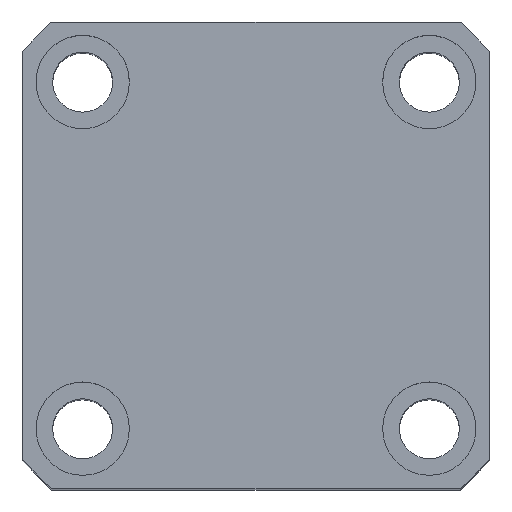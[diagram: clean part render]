
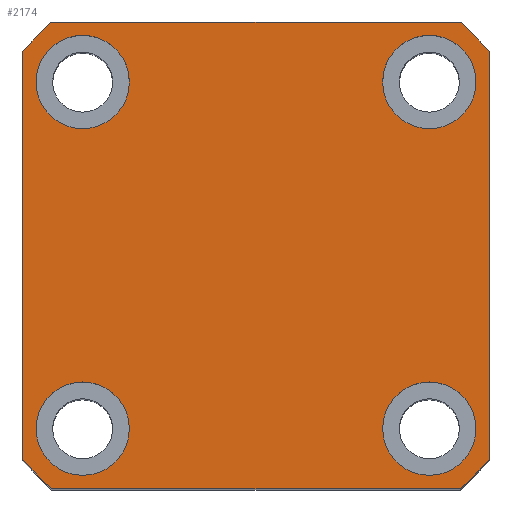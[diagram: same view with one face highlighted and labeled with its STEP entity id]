
A CAD part, top view. The second image highlights one B-rep face of the part: STEP entity #2174.
In plain terms, the highlighted planar face has unit normal (0, 0, 1).
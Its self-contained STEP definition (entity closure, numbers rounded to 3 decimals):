
#88 = EDGE_CURVE ( 'NONE', #9206, #11886, #5269, .T. ) ;
#153 = ORIENTED_EDGE ( 'NONE', *, *, #8220, .F. ) ;
#320 = EDGE_CURVE ( 'NONE', #7828, #8164, #4269, .T. ) ;
#364 = ORIENTED_EDGE ( 'NONE', *, *, #8535, .T. ) ;
#375 = CARTESIAN_POINT ( 'NONE',  ( -26., -26., 115. ) ) ;
#724 = CARTESIAN_POINT ( 'NONE',  ( 33., 26., 115. ) ) ;
#868 = EDGE_LOOP ( 'NONE', ( #7760, #10667 ) ) ;
#909 = VERTEX_POINT ( 'NONE', #1614 ) ;
#935 = CARTESIAN_POINT ( 'NONE',  ( 26., 26., 115. ) ) ;
#1083 = DIRECTION ( 'NONE',  ( 0., 0., 1. ) ) ;
#1107 = EDGE_CURVE ( 'NONE', #1724, #7828, #2087, .T. ) ;
#1427 = DIRECTION ( 'NONE',  ( 1., 0., 0. ) ) ;
#1451 = CIRCLE ( 'NONE', #4748, 7. ) ;
#1614 = CARTESIAN_POINT ( 'NONE',  ( -19., -26., 115. ) ) ;
#1724 = VERTEX_POINT ( 'NONE', #7102 ) ;
#1984 = DIRECTION ( 'NONE',  ( 1., 0., 0. ) ) ;
#2054 = CARTESIAN_POINT ( 'NONE',  ( 0., 0., 115. ) ) ;
#2087 = LINE ( 'NONE', #11456, #7739 ) ;
#2127 = DIRECTION ( 'NONE',  ( 0., 0., 1. ) ) ;
#2136 = EDGE_CURVE ( 'NONE', #8016, #11325, #8707, .T. ) ;
#2150 = VECTOR ( 'NONE', #9705, 1000. ) ;
#2159 = AXIS2_PLACEMENT_3D ( 'NONE', #2328, #9748, #3419 ) ;
#2174 = ADVANCED_FACE ( 'NONE', ( #8386, #2382, #10860, #13672, #8050 ), #3070, .T. ) ;
#2281 = CARTESIAN_POINT ( 'NONE',  ( -26., 26., 115. ) ) ;
#2294 = CARTESIAN_POINT ( 'NONE',  ( -35., 35., 115. ) ) ;
#2328 = CARTESIAN_POINT ( 'NONE',  ( 0., 0., 115. ) ) ;
#2382 = FACE_BOUND ( 'NONE', #12220, .T. ) ;
#2450 = VERTEX_POINT ( 'NONE', #4328 ) ;
#2767 = VERTEX_POINT ( 'NONE', #8939 ) ;
#3070 = PLANE ( 'NONE',  #11458 ) ;
#3128 = DIRECTION ( 'NONE',  ( 1., 0., 0. ) ) ;
#3215 = VERTEX_POINT ( 'NONE', #6489 ) ;
#3221 = AXIS2_PLACEMENT_3D ( 'NONE', #7442, #1083, #9752 ) ;
#3369 = DIRECTION ( 'NONE',  ( 1., 0., 0. ) ) ;
#3419 = DIRECTION ( 'NONE',  ( 1., 0., 0. ) ) ;
#3481 = ORIENTED_EDGE ( 'NONE', *, *, #9799, .F. ) ;
#3579 = DIRECTION ( 'NONE',  ( 0., 0., 1. ) ) ;
#3704 = VECTOR ( 'NONE', #8855, 1000. ) ;
#3711 = ORIENTED_EDGE ( 'NONE', *, *, #5736, .T. ) ;
#3963 = CARTESIAN_POINT ( 'NONE',  ( -26., 26., 115. ) ) ;
#4134 = DIRECTION ( 'NONE',  ( 0., 0., 1. ) ) ;
#4150 = CARTESIAN_POINT ( 'NONE',  ( 0., 0., 115. ) ) ;
#4153 = CARTESIAN_POINT ( 'NONE',  ( -35., 30.615, 115. ) ) ;
#4269 = CIRCLE ( 'NONE', #8052, 46.5 ) ;
#4328 = CARTESIAN_POINT ( 'NONE',  ( 35., 30.615, 115. ) ) ;
#4393 = CARTESIAN_POINT ( 'NONE',  ( 33., -26., 115. ) ) ;
#4687 = AXIS2_PLACEMENT_3D ( 'NONE', #8483, #2127, #9524 ) ;
#4748 = AXIS2_PLACEMENT_3D ( 'NONE', #3963, #11358, #5028 ) ;
#4849 = ORIENTED_EDGE ( 'NONE', *, *, #5924, .F. ) ;
#5003 = LINE ( 'NONE', #2294, #2150 ) ;
#5028 = DIRECTION ( 'NONE',  ( 1., 0., 0. ) ) ;
#5074 = AXIS2_PLACEMENT_3D ( 'NONE', #5990, #13370, #7062 ) ;
#5208 = DIRECTION ( 'NONE',  ( 1., 0., 0. ) ) ;
#5269 = CIRCLE ( 'NONE', #11857, 7. ) ;
#5390 = DIRECTION ( 'NONE',  ( 0., 0., 1. ) ) ;
#5491 = DIRECTION ( 'NONE',  ( 1., 0., 0. ) ) ;
#5643 = CARTESIAN_POINT ( 'NONE',  ( -33., 26., 115. ) ) ;
#5722 = EDGE_CURVE ( 'NONE', #11325, #8016, #7410, .T. ) ;
#5736 = EDGE_CURVE ( 'NONE', #12585, #12274, #10199, .T. ) ;
#5796 = CARTESIAN_POINT ( 'NONE',  ( 35., 35., 115. ) ) ;
#5924 = EDGE_CURVE ( 'NONE', #11886, #9206, #9527, .T. ) ;
#5990 = CARTESIAN_POINT ( 'NONE',  ( 26., 26., 115. ) ) ;
#6292 = CARTESIAN_POINT ( 'NONE',  ( -35., -30.615, 115. ) ) ;
#6489 = CARTESIAN_POINT ( 'NONE',  ( -33., -26., 115. ) ) ;
#6561 = ORIENTED_EDGE ( 'NONE', *, *, #320, .T. ) ;
#6864 = EDGE_LOOP ( 'NONE', ( #7935, #3481 ) ) ;
#6959 = CARTESIAN_POINT ( 'NONE',  ( 19., 26., 115. ) ) ;
#7062 = DIRECTION ( 'NONE',  ( 1., 0., 0. ) ) ;
#7102 = CARTESIAN_POINT ( 'NONE',  ( 30.615, 35., 115. ) ) ;
#7104 = LINE ( 'NONE', #5796, #12702 ) ;
#7180 = EDGE_CURVE ( 'NONE', #2450, #1724, #11895, .T. ) ;
#7208 = CARTESIAN_POINT ( 'NONE',  ( 30.615, -35., 115. ) ) ;
#7212 = AXIS2_PLACEMENT_3D ( 'NONE', #2281, #9686, #3369 ) ;
#7283 = ORIENTED_EDGE ( 'NONE', *, *, #7180, .T. ) ;
#7316 = ORIENTED_EDGE ( 'NONE', *, *, #8426, .F. ) ;
#7410 = CIRCLE ( 'NONE', #12709, 7. ) ;
#7442 = CARTESIAN_POINT ( 'NONE',  ( 26., -26., 115. ) ) ;
#7580 = EDGE_CURVE ( 'NONE', #7851, #13596, #1451, .T. ) ;
#7739 = VECTOR ( 'NONE', #12543, 1000. ) ;
#7760 = ORIENTED_EDGE ( 'NONE', *, *, #2136, .F. ) ;
#7791 = DIRECTION ( 'NONE',  ( 0., 0., 1. ) ) ;
#7808 = CARTESIAN_POINT ( 'NONE',  ( -35., -35., 115. ) ) ;
#7828 = VERTEX_POINT ( 'NONE', #9563 ) ;
#7851 = VERTEX_POINT ( 'NONE', #12724 ) ;
#7935 = ORIENTED_EDGE ( 'NONE', *, *, #7580, .F. ) ;
#7946 = ORIENTED_EDGE ( 'NONE', *, *, #10354, .T. ) ;
#8016 = VERTEX_POINT ( 'NONE', #724 ) ;
#8050 = FACE_OUTER_BOUND ( 'NONE', #11056, .T. ) ;
#8052 = AXIS2_PLACEMENT_3D ( 'NONE', #8941, #5390, #5491 ) ;
#8164 = VERTEX_POINT ( 'NONE', #4153 ) ;
#8220 = EDGE_CURVE ( 'NONE', #3215, #909, #11885, .T. ) ;
#8340 = DIRECTION ( 'NONE',  ( 0., 0., 1. ) ) ;
#8352 = DIRECTION ( 'NONE',  ( 0., 0., 1. ) ) ;
#8386 = FACE_BOUND ( 'NONE', #9583, .T. ) ;
#8426 = EDGE_CURVE ( 'NONE', #909, #3215, #10555, .T. ) ;
#8483 = CARTESIAN_POINT ( 'NONE',  ( -26., -26., 115. ) ) ;
#8535 = EDGE_CURVE ( 'NONE', #2767, #2450, #7104, .T. ) ;
#8635 = CIRCLE ( 'NONE', #11975, 46.5 ) ;
#8707 = CIRCLE ( 'NONE', #5074, 7. ) ;
#8774 = VERTEX_POINT ( 'NONE', #7208 ) ;
#8855 = DIRECTION ( 'NONE',  ( 1., 0., 0. ) ) ;
#8888 = CARTESIAN_POINT ( 'NONE',  ( 26., -26., 115. ) ) ;
#8939 = CARTESIAN_POINT ( 'NONE',  ( 35., -30.615, 115. ) ) ;
#8941 = CARTESIAN_POINT ( 'NONE',  ( 0., 0., 115. ) ) ;
#9200 = CARTESIAN_POINT ( 'NONE',  ( 19., -26., 115. ) ) ;
#9206 = VERTEX_POINT ( 'NONE', #4393 ) ;
#9459 = DIRECTION ( 'NONE',  ( 0., 0., 1. ) ) ;
#9524 = DIRECTION ( 'NONE',  ( 1., 0., 0. ) ) ;
#9527 = CIRCLE ( 'NONE', #3221, 7. ) ;
#9529 = CIRCLE ( 'NONE', #7212, 7. ) ;
#9563 = CARTESIAN_POINT ( 'NONE',  ( -30.615, 35., 115. ) ) ;
#9583 = EDGE_LOOP ( 'NONE', ( #7316, #153 ) ) ;
#9686 = DIRECTION ( 'NONE',  ( 0., 0., 1. ) ) ;
#9705 = DIRECTION ( 'NONE',  ( 0., -1., 0. ) ) ;
#9748 = DIRECTION ( 'NONE',  ( 0., 0., 1. ) ) ;
#9752 = DIRECTION ( 'NONE',  ( 1., 0., 0. ) ) ;
#9799 = EDGE_CURVE ( 'NONE', #13596, #7851, #9529, .T. ) ;
#9903 = DIRECTION ( 'NONE',  ( 1., 0., 0. ) ) ;
#10199 = CIRCLE ( 'NONE', #13427, 46.5 ) ;
#10354 = EDGE_CURVE ( 'NONE', #12274, #8774, #12131, .T. ) ;
#10457 = CARTESIAN_POINT ( 'NONE',  ( 0., 0., 115. ) ) ;
#10555 = CIRCLE ( 'NONE', #12506, 7. ) ;
#10667 = ORIENTED_EDGE ( 'NONE', *, *, #5722, .F. ) ;
#10860 = FACE_BOUND ( 'NONE', #868, .T. ) ;
#10929 = ORIENTED_EDGE ( 'NONE', *, *, #1107, .T. ) ;
#10958 = ORIENTED_EDGE ( 'NONE', *, *, #13265, .T. ) ;
#11056 = EDGE_LOOP ( 'NONE', ( #364, #7283, #10929, #6561, #10958, #3711, #7946, #12955 ) ) ;
#11325 = VERTEX_POINT ( 'NONE', #6959 ) ;
#11358 = DIRECTION ( 'NONE',  ( 0., 0., 1. ) ) ;
#11456 = CARTESIAN_POINT ( 'NONE',  ( -35., 35., 115. ) ) ;
#11458 = AXIS2_PLACEMENT_3D ( 'NONE', #4150, #8352, #5208 ) ;
#11530 = DIRECTION ( 'NONE',  ( 1., 0., 0. ) ) ;
#11857 = AXIS2_PLACEMENT_3D ( 'NONE', #8888, #3579, #9903 ) ;
#11885 = CIRCLE ( 'NONE', #4687, 7. ) ;
#11886 = VERTEX_POINT ( 'NONE', #9200 ) ;
#11895 = CIRCLE ( 'NONE', #2159, 46.5 ) ;
#11975 = AXIS2_PLACEMENT_3D ( 'NONE', #2054, #9459, #3128 ) ;
#12126 = DIRECTION ( 'NONE',  ( 0., 1., 0. ) ) ;
#12131 = LINE ( 'NONE', #7808, #3704 ) ;
#12220 = EDGE_LOOP ( 'NONE', ( #13630, #4849 ) ) ;
#12274 = VERTEX_POINT ( 'NONE', #12983 ) ;
#12506 = AXIS2_PLACEMENT_3D ( 'NONE', #375, #7791, #1427 ) ;
#12543 = DIRECTION ( 'NONE',  ( -1., 0., 0. ) ) ;
#12578 = EDGE_CURVE ( 'NONE', #8774, #2767, #8635, .T. ) ;
#12585 = VERTEX_POINT ( 'NONE', #6292 ) ;
#12702 = VECTOR ( 'NONE', #12126, 1000. ) ;
#12709 = AXIS2_PLACEMENT_3D ( 'NONE', #935, #8340, #1984 ) ;
#12724 = CARTESIAN_POINT ( 'NONE',  ( -19., 26., 115. ) ) ;
#12955 = ORIENTED_EDGE ( 'NONE', *, *, #12578, .T. ) ;
#12983 = CARTESIAN_POINT ( 'NONE',  ( -30.615, -35., 115. ) ) ;
#13265 = EDGE_CURVE ( 'NONE', #8164, #12585, #5003, .T. ) ;
#13370 = DIRECTION ( 'NONE',  ( 0., 0., 1. ) ) ;
#13427 = AXIS2_PLACEMENT_3D ( 'NONE', #10457, #4134, #11530 ) ;
#13596 = VERTEX_POINT ( 'NONE', #5643 ) ;
#13630 = ORIENTED_EDGE ( 'NONE', *, *, #88, .F. ) ;
#13672 = FACE_BOUND ( 'NONE', #6864, .T. ) ;
